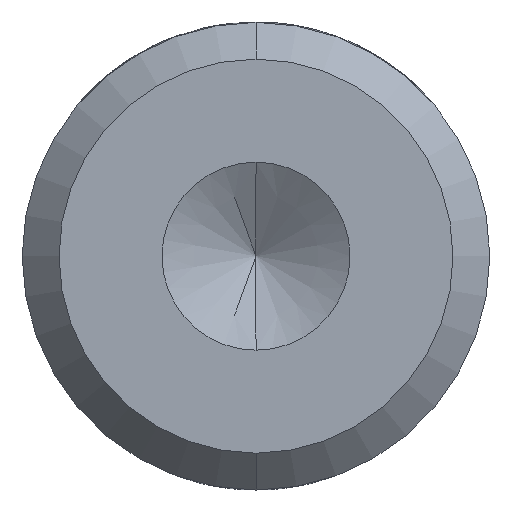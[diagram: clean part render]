
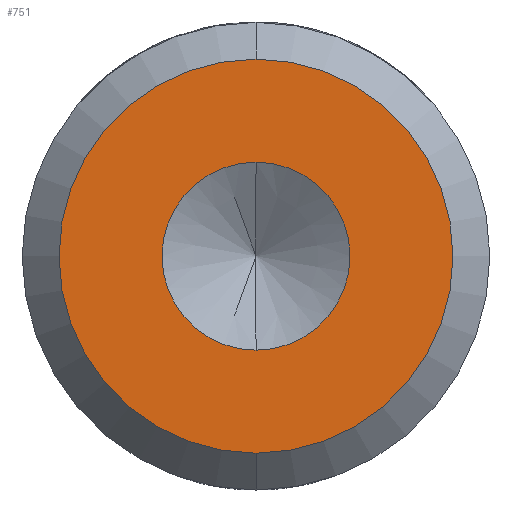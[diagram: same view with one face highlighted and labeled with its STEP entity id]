
A CAD part, front view. The second image highlights one B-rep face of the part: STEP entity #751.
In plain terms, the highlighted planar face has unit normal (0, -1, 0).
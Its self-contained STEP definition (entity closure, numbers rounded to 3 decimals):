
#392 = CARTESIAN_POINT ( 'NONE',  ( 0., -51., 0. ) ) ;
#751 = ADVANCED_FACE ( 'NONE', ( #1227, #4491 ), #2787, .F. ) ;
#974 = ORIENTED_EDGE ( 'NONE', *, *, #2016, .F. ) ;
#1009 = CIRCLE ( 'NONE', #5525, 2.553 ) ;
#1031 = DIRECTION ( 'NONE',  ( 0., 0., 1. ) ) ;
#1044 = EDGE_LOOP ( 'NONE', ( #1099, #5046 ) ) ;
#1099 = ORIENTED_EDGE ( 'NONE', *, *, #2558, .T. ) ;
#1145 = VERTEX_POINT ( 'NONE', #2401 ) ;
#1227 = FACE_BOUND ( 'NONE', #2756, .T. ) ;
#1326 = AXIS2_PLACEMENT_3D ( 'NONE', #2479, #3982, #1031 ) ;
#1559 = CARTESIAN_POINT ( 'NONE',  ( 0., -51., 0. ) ) ;
#1683 = DIRECTION ( 'NONE',  ( 0., -1., 0. ) ) ;
#1705 = DIRECTION ( 'NONE',  ( 0., 0., -1. ) ) ;
#2016 = EDGE_CURVE ( 'NONE', #3903, #1145, #1009, .T. ) ;
#2293 = AXIS2_PLACEMENT_3D ( 'NONE', #392, #3648, #2727 ) ;
#2401 = CARTESIAN_POINT ( 'NONE',  ( 0., -51., -2.553 ) ) ;
#2479 = CARTESIAN_POINT ( 'NONE',  ( 0., -51., 0. ) ) ;
#2558 = EDGE_CURVE ( 'NONE', #3365, #5140, #4713, .T. ) ;
#2628 = AXIS2_PLACEMENT_3D ( 'NONE', #3089, #1683, #1705 ) ;
#2727 = DIRECTION ( 'NONE',  ( 0., 0., 1. ) ) ;
#2756 = EDGE_LOOP ( 'NONE', ( #5788, #974 ) ) ;
#2787 = PLANE ( 'NONE',  #2293 ) ;
#2942 = CARTESIAN_POINT ( 'NONE',  ( 0., -51., 5.35 ) ) ;
#3001 = CIRCLE ( 'NONE', #2628, 2.553 ) ;
#3089 = CARTESIAN_POINT ( 'NONE',  ( 0., -51., 0. ) ) ;
#3252 = AXIS2_PLACEMENT_3D ( 'NONE', #1559, #5026, #4170 ) ;
#3365 = VERTEX_POINT ( 'NONE', #2942 ) ;
#3511 = EDGE_CURVE ( 'NONE', #1145, #3903, #3001, .T. ) ;
#3648 = DIRECTION ( 'NONE',  ( 0., 1., 0. ) ) ;
#3783 = CIRCLE ( 'NONE', #3252, 5.35 ) ;
#3876 = CARTESIAN_POINT ( 'NONE',  ( 0., -51., -5.35 ) ) ;
#3887 = CARTESIAN_POINT ( 'NONE',  ( 0., -51., 2.553 ) ) ;
#3903 = VERTEX_POINT ( 'NONE', #3887 ) ;
#3982 = DIRECTION ( 'NONE',  ( 0., -1., 0. ) ) ;
#4156 = DIRECTION ( 'NONE',  ( 0., 0., -1. ) ) ;
#4170 = DIRECTION ( 'NONE',  ( 0., 0., 1. ) ) ;
#4491 = FACE_OUTER_BOUND ( 'NONE', #1044, .T. ) ;
#4713 = CIRCLE ( 'NONE', #1326, 5.35 ) ;
#5026 = DIRECTION ( 'NONE',  ( 0., -1., 0. ) ) ;
#5046 = ORIENTED_EDGE ( 'NONE', *, *, #5304, .T. ) ;
#5140 = VERTEX_POINT ( 'NONE', #3876 ) ;
#5304 = EDGE_CURVE ( 'NONE', #5140, #3365, #3783, .T. ) ;
#5525 = AXIS2_PLACEMENT_3D ( 'NONE', #5583, #6063, #4156 ) ;
#5583 = CARTESIAN_POINT ( 'NONE',  ( 0., -51., 0. ) ) ;
#5788 = ORIENTED_EDGE ( 'NONE', *, *, #3511, .F. ) ;
#6063 = DIRECTION ( 'NONE',  ( 0., -1., 0. ) ) ;
